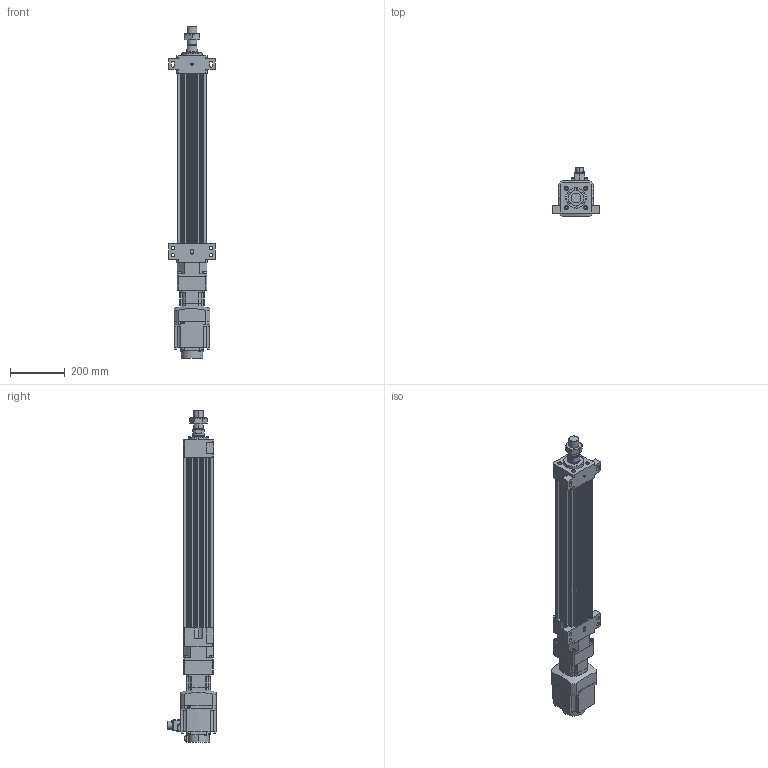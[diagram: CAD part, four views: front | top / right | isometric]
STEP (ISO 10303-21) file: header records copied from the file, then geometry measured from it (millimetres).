
FILE_DESCRIPTION (( 'STEP AP203' ), '1' );
FILE_NAME ('HES110NS(HS)-S450-W010G00-M-FFB.STEP', '2023-01-27T05:46:17', ( 'tms' ), ( '' ), 'SwSTEP 2.0', 'SolidWorks 2013', '' );
FILE_SCHEMA (( 'CONFIG_CONTROL_DESIGN' ));
Length unit declared in the file: millimetre
Products named in the file (8): HES110 ROD M ST450; AB090-003[HG-SR102B]; HG-SR102; AB0901; HES110NS(HS)-S450-W010G00-M-FFB; HES110-S450-G090-FFB; M36X1.5P; P0401301004
Assembly tree (7 placements, depth 3):
  HES110NS(HS)-S450-W010G00-M-FFB
    HES110-S450-G090-FFB
    HES110 ROD M ST450
    AB090-003[HG-SR102B]
      AB0901
      P0401301004
    HG-SR102
    M36X1.5P
Bounding box: 170 x 177.49 x 1208.5 mm (x, y, z)
Volume: 7869691.2 mm3; surface area: 1075183.1 mm2
Topology: 4 solids, 15 shells, 1189 faces, 3015 edges, 1964 vertices
Faces by surface type: plane 570, cylinder 529, cone 78, bspline 8, torus 4
Entity records: 37852 total; most frequent: CARTESIAN_POINT 7358, DIRECTION 6498, ORIENTED_EDGE 5982, EDGE_CURVE 3001, AXIS2_PLACEMENT_3D 2375, VERTEX_POINT 1964, VECTOR 1748, LINE 1748
